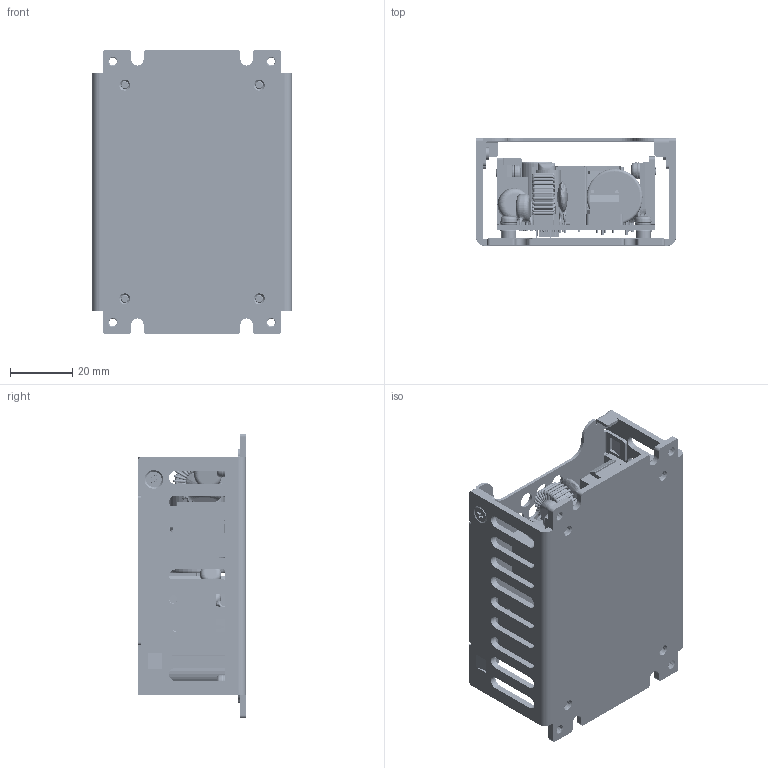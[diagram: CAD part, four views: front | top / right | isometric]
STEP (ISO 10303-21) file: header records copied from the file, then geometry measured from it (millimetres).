
FILE_DESCRIPTION (( 'STEP AP203' ), '1' );
FILE_NAME ('CFM70SXXX-CA 2023.02.08.STEP', '2023-11-24T06:16:23', ( 'cincon' ), ( '' ), 'SwSTEP 2.0', 'SolidWorks 2020', '' );
FILE_SCHEMA (( 'CONFIG_CONTROL_DESIGN' ));
Products named in the file (1): CFM70SXXX-CA 2023.02.08
Bounding box: 64 x 34.5 x 91.4 mm (x, y, z)
Surface area: 63458.8 mm2 (no closed solid volume)
Topology: 0 solids, 31 shells, 3080 faces, 8773 edges, 5681 vertices
Faces by surface type: cylinder 1317, plane 1058, torus 424, bspline 200, cone 81
Entity records: 147624 total; most frequent: CARTESIAN_POINT 69302, ORIENTED_EDGE 17514, DIRECTION 15680, EDGE_CURVE 8761, AXIS2_PLACEMENT_3D 6034, VERTEX_POINT 5681, LINE 3612, VECTOR 3612
